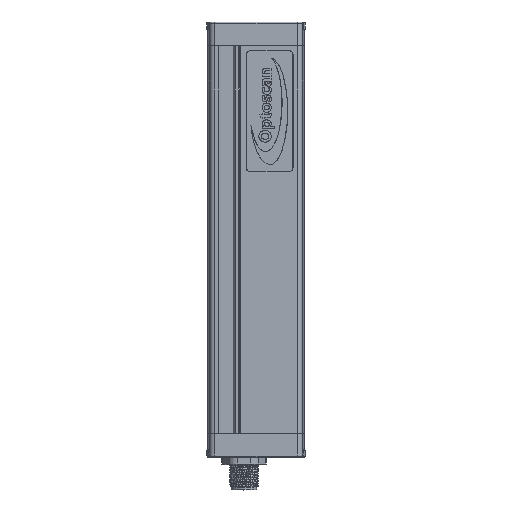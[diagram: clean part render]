
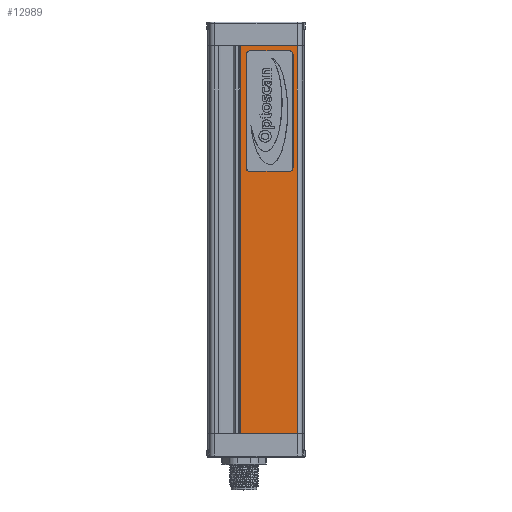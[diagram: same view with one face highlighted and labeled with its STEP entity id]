
A CAD part, top view. The second image highlights one B-rep face of the part: STEP entity #12989.
In plain terms, the highlighted planar face has unit normal (0, 0, 1).
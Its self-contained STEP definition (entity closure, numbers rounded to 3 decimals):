
#157=FACE_BOUND('',#2163,.T.);
#429=CIRCLE('',#13653,1.45);
#435=CIRCLE('',#13661,1.45);
#439=CIRCLE('',#13667,1.45);
#443=CIRCLE('',#13673,1.45);
#1007=PLANE('',#13786);
#1449=FACE_OUTER_BOUND('',#2162,.T.);
#2162=EDGE_LOOP('',(#9392,#9393,#9394,#9395));
#2163=EDGE_LOOP('',(#9396,#9397,#9398,#9399,#9400,#9401,#9402,#9403));
#3054=LINE('',#19231,#4083);
#3056=LINE('',#19243,#4085);
#3058=LINE('',#19255,#4087);
#3060=LINE('',#19264,#4089);
#3271=LINE('',#21431,#4300);
#3272=LINE('',#21433,#4301);
#3273=LINE('',#21435,#4302);
#3274=LINE('',#21436,#4303);
#4083=VECTOR('',#15218,10.);
#4085=VECTOR('',#15232,10.);
#4087=VECTOR('',#15246,10.);
#4089=VECTOR('',#15258,10.);
#4300=VECTOR('',#15693,10.);
#4301=VECTOR('',#15694,10.);
#4302=VECTOR('',#15695,10.);
#4303=VECTOR('',#15696,10.);
#5216=VERTEX_POINT('',#19219);
#5217=VERTEX_POINT('',#19221);
#5219=VERTEX_POINT('',#19227);
#5221=VERTEX_POINT('',#19233);
#5223=VERTEX_POINT('',#19239);
#5225=VERTEX_POINT('',#19245);
#5227=VERTEX_POINT('',#19251);
#5229=VERTEX_POINT('',#19257);
#5471=VERTEX_POINT('',#21429);
#5472=VERTEX_POINT('',#21430);
#5473=VERTEX_POINT('',#21432);
#5474=VERTEX_POINT('',#21434);
#6518=EDGE_CURVE('',#5216,#5217,#429,.T.);
#6523=EDGE_CURVE('',#5217,#5219,#3054,.T.);
#6526=EDGE_CURVE('',#5219,#5221,#435,.T.);
#6529=EDGE_CURVE('',#5221,#5223,#3056,.T.);
#6532=EDGE_CURVE('',#5223,#5225,#439,.T.);
#6535=EDGE_CURVE('',#5225,#5227,#3058,.T.);
#6538=EDGE_CURVE('',#5227,#5229,#443,.T.);
#6540=EDGE_CURVE('',#5229,#5216,#3060,.T.);
#6909=EDGE_CURVE('',#5471,#5472,#3271,.T.);
#6910=EDGE_CURVE('',#5472,#5473,#3272,.T.);
#6911=EDGE_CURVE('',#5474,#5473,#3273,.T.);
#6912=EDGE_CURVE('',#5471,#5474,#3274,.T.);
#9392=ORIENTED_EDGE('',*,*,#6909,.T.);
#9393=ORIENTED_EDGE('',*,*,#6910,.T.);
#9394=ORIENTED_EDGE('',*,*,#6911,.F.);
#9395=ORIENTED_EDGE('',*,*,#6912,.F.);
#9396=ORIENTED_EDGE('',*,*,#6518,.F.);
#9397=ORIENTED_EDGE('',*,*,#6540,.F.);
#9398=ORIENTED_EDGE('',*,*,#6538,.F.);
#9399=ORIENTED_EDGE('',*,*,#6535,.F.);
#9400=ORIENTED_EDGE('',*,*,#6532,.F.);
#9401=ORIENTED_EDGE('',*,*,#6529,.F.);
#9402=ORIENTED_EDGE('',*,*,#6526,.F.);
#9403=ORIENTED_EDGE('',*,*,#6523,.F.);
#12989=ADVANCED_FACE('',(#1449,#157),#1007,.T.);
#13653=AXIS2_PLACEMENT_3D('',#19222,#15207,#15208);
#13661=AXIS2_PLACEMENT_3D('',#19237,#15225,#15226);
#13667=AXIS2_PLACEMENT_3D('',#19249,#15239,#15240);
#13673=AXIS2_PLACEMENT_3D('',#19261,#15253,#15254);
#13786=AXIS2_PLACEMENT_3D('',#21428,#15691,#15692);
#15207=DIRECTION('center_axis',(0.,0.,
1.));
#15208=DIRECTION('ref_axis',(1.,0.,0.));
#15218=DIRECTION('',(1.,0.,0.));
#15225=DIRECTION('center_axis',(0.,0.,
1.));
#15226=DIRECTION('ref_axis',(1.,0.,0.));
#15232=DIRECTION('',(0.,1.,0.));
#15239=DIRECTION('center_axis',(0.,0.,
1.));
#15240=DIRECTION('ref_axis',(1.,0.,0.));
#15246=DIRECTION('',(-1.,0.,0.));
#15253=DIRECTION('center_axis',(0.,0.,
1.));
#15254=DIRECTION('ref_axis',(1.,0.,0.));
#15258=DIRECTION('',(0.,-1.,0.));
#15691=DIRECTION('center_axis',(0.,0.,
1.));
#15692=DIRECTION('ref_axis',(1.,0.,0.));
#15693=DIRECTION('',(1.,0.,0.));
#15694=DIRECTION('',(0.,1.,0.));
#15695=DIRECTION('',(1.,0.,0.));
#15696=DIRECTION('',(0.,1.,0.));
#19219=CARTESIAN_POINT('',(-42.765,109.7,28.879));
#19221=CARTESIAN_POINT('',(-41.315,108.25,28.879));
#19222=CARTESIAN_POINT('Origin',(-41.315,109.7,28.879));
#19227=CARTESIAN_POINT('',(-24.915,108.25,28.879));
#19231=CARTESIAN_POINT('',(-37.215,108.25,28.879));
#19233=CARTESIAN_POINT('',(-23.465,109.7,28.879));
#19237=CARTESIAN_POINT('Origin',(-24.915,109.7,28.879));
#19239=CARTESIAN_POINT('',(-23.465,156.5,28.879));
#19243=CARTESIAN_POINT('',(-23.465,121.4,28.879));
#19245=CARTESIAN_POINT('',(-24.915,157.95,28.879));
#19249=CARTESIAN_POINT('Origin',(-24.915,156.5,28.879));
#19251=CARTESIAN_POINT('',(-41.315,157.95,28.879));
#19255=CARTESIAN_POINT('',(-29.015,157.95,28.879));
#19257=CARTESIAN_POINT('',(-42.765,156.5,28.879));
#19261=CARTESIAN_POINT('Origin',(-41.315,156.5,28.879));
#19264=CARTESIAN_POINT('',(-42.765,144.8,28.879));
#21428=CARTESIAN_POINT('Origin',(-44.965,0.,
28.879));
#21429=CARTESIAN_POINT('',(-44.965,0.,28.879));
#21430=CARTESIAN_POINT('',(-21.664,0.,28.879));
#21431=CARTESIAN_POINT('',(-44.965,0.,28.879));
#21432=CARTESIAN_POINT('',(-21.664,160.,28.879));
#21433=CARTESIAN_POINT('',(-21.664,0.,28.879));
#21434=CARTESIAN_POINT('',(-44.965,160.,28.879));
#21435=CARTESIAN_POINT('',(-44.965,160.,28.879));
#21436=CARTESIAN_POINT('',(-44.965,0.,28.879));
